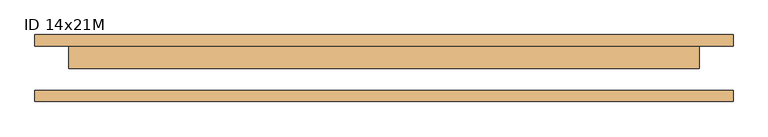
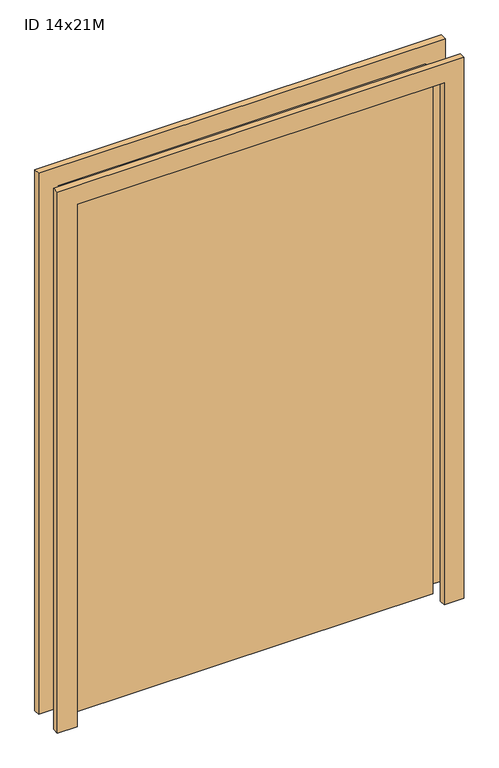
"""IFC4 building model written with IfcOpenShell, lengths in millimetres: door geometry, Innerdør slett tofløya lite sidefelt : ID 14x21M."""

from ifc_helpers import new_model, si_unit, frame, origin, origin_with_axes, place, context, project, spatial, polyline, outline, extrude, source, transform, mapped, element, save


def id_14x21m_9ddf2398(model_context):
    return source(origin(), model_context, "Body", "SweptSolid", [
        extrude(outline(polyline([(102.0, 50.0), (102.0, -1.0), (-1308.0, -1.0), (-1308.0, 50.0), (102.0, 50.0)])), origin_with_axes(), (0.0, 0.0, 1.0), 2120.0),
        extrude(outline(polyline([(2120.0, -1308.0), (2120.0, 102.0), (0.0, 102.0), (0.0, 178.0), (2196.0, 178.0), (2196.0, -1384.0), (0.0, -1384.0), (0.0, -1308.0), (2120.0, -1308.0)])), frame((0.0, -75.0, 0.0), z_axis=(0.0, 1.0, 0.0), x_axis=(0.0, 0.0, 1.0)), (0.0, 0.0, 1.0), 25.0),
        extrude(outline(polyline([(2120.0, -1308.0), (2120.0, 102.0), (0.0, 102.0), (0.0, 178.0), (2196.0, 178.0), (2196.0, -1384.0), (0.0, -1384.0), (0.0, -1308.0), (2120.0, -1308.0)])), frame((0.0, 50.0, 0.0), z_axis=(0.0, 1.0, 0.0), x_axis=(0.0, 0.0, 1.0)), (0.0, 0.0, 1.0), 25.0),
    ])


if __name__ == "__main__":
    model = new_model("IFC4")
    model_context = context("Model", 3, world=origin())
    ifc_project = project(units=[si_unit("LENGTHUNIT", "METRE", prefix="MILLI")], contexts=[model_context])
    site = spatial("IfcSite", under=ifc_project)
    building = spatial("IfcBuilding", under=site)
    placement = place(None, origin())
    id_14x21m_shape = id_14x21m_9ddf2398(model_context)
    element("IfcDoor", 1, ObjectType="Innerdør slett tofløya lite sidefelt : ID 14x21M", at=placement, inside=building, context=model_context, shape_type="MappedRepresentation", body=[
        mapped(id_14x21m_shape, transform((0.0, 0.0, 0.0), x_axis=(1.0, 0.0, 0.0), y_axis=(0.0, 1.0, 0.0), z_axis=(0.0, 0.0, 1.0))),
    ])
    save(model, "model.ifc")
